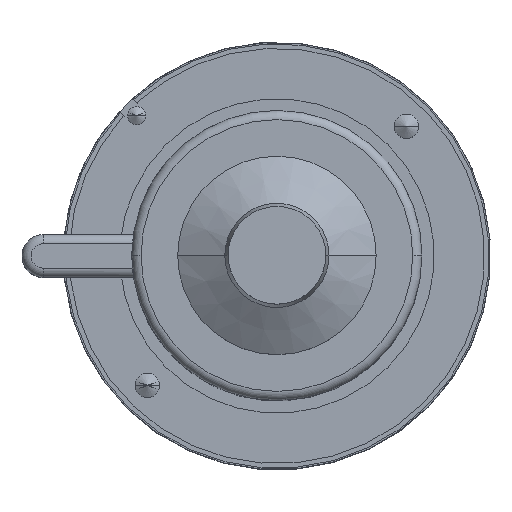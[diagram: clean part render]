
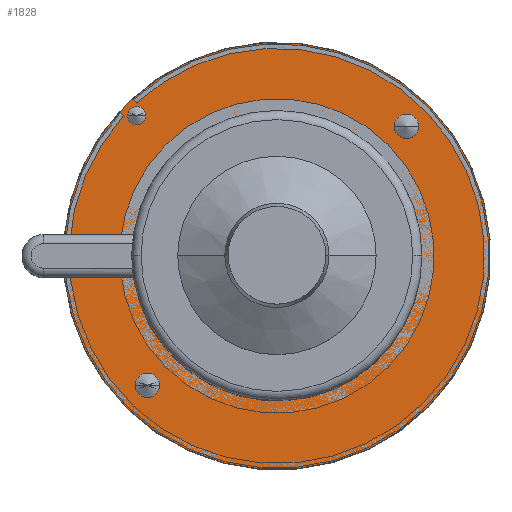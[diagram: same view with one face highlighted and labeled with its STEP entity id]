
A CAD part, top view. The second image highlights one B-rep face of the part: STEP entity #1828.
In plain terms, the highlighted planar face has unit normal (0, 0, 1).
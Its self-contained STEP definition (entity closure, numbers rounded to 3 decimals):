
#477 = EDGE_CURVE ( 'NONE', #6702, #7359, #12058, .T. ) ;
#478 = EDGE_CURVE ( 'NONE', #7576, #7233, #12060, .T. ) ;
#513 = EDGE_CURVE ( 'NONE', #7233, #7576, #12139, .T. ) ;
#514 = EDGE_CURVE ( 'NONE', #7513, #6909, #12138, .T. ) ;
#515 = EDGE_CURVE ( 'NONE', #7513, #7019, #12142, .T. ) ;
#516 = EDGE_CURVE ( 'NONE', #7097, #7019, #12141, .T. ) ;
#520 = EDGE_CURVE ( 'NONE', #7400, #6616, #12152, .T. ) ;
#563 = EDGE_CURVE ( 'NONE', #7097, #7298, #12245, .T. ) ;
#793 = DIRECTION ( 'NONE',  ( 0., 0., 1. ) ) ;
#895 = CARTESIAN_POINT ( 'NONE',  ( -46.981, -7., 32. ) ) ;
#918 = CARTESIAN_POINT ( 'NONE',  ( 42.426, 42.426, 32. ) ) ;
#991 = CARTESIAN_POINT ( 'NONE',  ( -46.981, 7., 32. ) ) ;
#1005 = CARTESIAN_POINT ( 'NONE',  ( -46.426, -42.426, 32. ) ) ;
#1041 = CARTESIAN_POINT ( 'NONE',  ( 38.426, 42.426, 32. ) ) ;
#1042 = DIRECTION ( 'NONE',  ( 0., 0., 1. ) ) ;
#1078 = CARTESIAN_POINT ( 'NONE',  ( -42.962, 45.962, 32. ) ) ;
#1129 = DIRECTION ( 'NONE',  ( 1., 0., 0. ) ) ;
#1238 = CARTESIAN_POINT ( 'NONE',  ( -69.649, -7., 32. ) ) ;
#1244 = CARTESIAN_POINT ( 'NONE',  ( 47.5, 0., 32. ) ) ;
#1297 = CARTESIAN_POINT ( 'NONE',  ( -48.962, 45.962, 32. ) ) ;
#1320 = CARTESIAN_POINT ( 'NONE',  ( 46.426, 42.426, 32. ) ) ;
#1407 = CARTESIAN_POINT ( 'NONE',  ( 0., 0., 32. ) ) ;
#1471 = CARTESIAN_POINT ( 'NONE',  ( -69.649, 7., 32. ) ) ;
#1474 = DIRECTION ( 'NONE',  ( -1., 0., 0. ) ) ;
#1559 = CARTESIAN_POINT ( 'NONE',  ( -38.426, -42.426, 32. ) ) ;
#1615 = AXIS2_PLACEMENT_3D ( 'NONE', #17335, #17334, #17299 ) ;
#1828 = ADVANCED_FACE ( 'NONE', ( #12469, #12470, #12471, #12472 ), #17336, .F. ) ;
#2061 = AXIS2_PLACEMENT_3D ( 'NONE', #6911, #6506, #6504 ) ;
#2071 = AXIS2_PLACEMENT_3D ( 'NONE', #6924, #7641, #6872 ) ;
#2077 = AXIS2_PLACEMENT_3D ( 'NONE', #7127, #6964, #7471 ) ;
#2078 = AXIS2_PLACEMENT_3D ( 'NONE', #6419, #7640, #6916 ) ;
#2096 = AXIS2_PLACEMENT_3D ( 'NONE', #6614, #6743, #6668 ) ;
#2098 = AXIS2_PLACEMENT_3D ( 'NONE', #6621, #6645, #6803 ) ;
#3650 = CIRCLE ( 'NONE', #21567, 4. ) ;
#3651 = CIRCLE ( 'NONE', #21566, 47.5 ) ;
#6341 = CARTESIAN_POINT ( 'NONE',  ( 0., -7., 32. ) ) ;
#6419 = CARTESIAN_POINT ( 'NONE',  ( -45.962, 45.962, 32. ) ) ;
#6504 = DIRECTION ( 'NONE',  ( 1., 0., 0. ) ) ;
#6506 = DIRECTION ( 'NONE',  ( 0., 0., 1. ) ) ;
#6614 = CARTESIAN_POINT ( 'NONE',  ( -45.962, 45.962, 32. ) ) ;
#6616 = VERTEX_POINT ( 'NONE', #1320 ) ;
#6621 = CARTESIAN_POINT ( 'NONE',  ( -42.426, -42.426, 32. ) ) ;
#6645 = DIRECTION ( 'NONE',  ( 0., 0., 1. ) ) ;
#6668 = DIRECTION ( 'NONE',  ( -1., 0., 0. ) ) ;
#6702 = VERTEX_POINT ( 'NONE', #1005 ) ;
#6742 = CARTESIAN_POINT ( 'NONE',  ( 0., 7., 32. ) ) ;
#6743 = DIRECTION ( 'NONE',  ( 0., 0., 1. ) ) ;
#6803 = DIRECTION ( 'NONE',  ( -1., 0., 0. ) ) ;
#6872 = DIRECTION ( 'NONE',  ( -1., 0., 0. ) ) ;
#6909 = VERTEX_POINT ( 'NONE', #991 ) ;
#6911 = CARTESIAN_POINT ( 'NONE',  ( 42.426, 42.426, 32. ) ) ;
#6916 = DIRECTION ( 'NONE',  ( -1., 0., 0. ) ) ;
#6924 = CARTESIAN_POINT ( 'NONE',  ( 0., 0., 32. ) ) ;
#6964 = DIRECTION ( 'NONE',  ( 0., 0., -1. ) ) ;
#7019 = VERTEX_POINT ( 'NONE', #1238 ) ;
#7097 = VERTEX_POINT ( 'NONE', #895 ) ;
#7127 = CARTESIAN_POINT ( 'NONE',  ( 0., 0., 32. ) ) ;
#7233 = VERTEX_POINT ( 'NONE', #1297 ) ;
#7298 = VERTEX_POINT ( 'NONE', #1244 ) ;
#7314 = DIRECTION ( 'NONE',  ( 1., 0., 0. ) ) ;
#7359 = VERTEX_POINT ( 'NONE', #1559 ) ;
#7400 = VERTEX_POINT ( 'NONE', #1041 ) ;
#7467 = DIRECTION ( 'NONE',  ( -1., 0., 0. ) ) ;
#7471 = DIRECTION ( 'NONE',  ( -1., 0., 0. ) ) ;
#7513 = VERTEX_POINT ( 'NONE', #1471 ) ;
#7576 = VERTEX_POINT ( 'NONE', #1078 ) ;
#7640 = DIRECTION ( 'NONE',  ( 0., 0., 1. ) ) ;
#7641 = DIRECTION ( 'NONE',  ( 0., 0., 1. ) ) ;
#7711 = EDGE_CURVE ( 'NONE', #6616, #7400, #3650, .T. ) ;
#7712 = EDGE_CURVE ( 'NONE', #7298, #6909, #3651, .T. ) ;
#7920 = EDGE_CURVE ( 'NONE', #7359, #6702, #14125, .T. ) ;
#12058 = CIRCLE ( 'NONE', #2098, 4. ) ;
#12060 = CIRCLE ( 'NONE', #2096, 3. ) ;
#12138 = LINE ( 'NONE', #6742, #12140 ) ;
#12139 = CIRCLE ( 'NONE', #2078, 3. ) ;
#12140 = VECTOR ( 'NONE', #7314, 1000. ) ;
#12141 = LINE ( 'NONE', #6341, #12143 ) ;
#12142 = CIRCLE ( 'NONE', #2077, 70. ) ;
#12143 = VECTOR ( 'NONE', #7467, 1000. ) ;
#12152 = CIRCLE ( 'NONE', #2061, 4. ) ;
#12245 = CIRCLE ( 'NONE', #2071, 47.5 ) ;
#12469 = FACE_OUTER_BOUND ( 'NONE', #19719, .T. ) ;
#12470 = FACE_BOUND ( 'NONE', #19677, .T. ) ;
#12471 = FACE_BOUND ( 'NONE', #19774, .T. ) ;
#12472 = FACE_BOUND ( 'NONE', #16467, .T. ) ;
#13367 = DIRECTION ( 'NONE',  ( 0., 0., 1. ) ) ;
#13532 = DIRECTION ( 'NONE',  ( -1., 0., 0. ) ) ;
#13668 = CARTESIAN_POINT ( 'NONE',  ( -42.426, -42.426, 32. ) ) ;
#14125 = CIRCLE ( 'NONE', #21540, 4. ) ;
#16467 = EDGE_LOOP ( 'NONE', ( #20539, #20336 ) ) ;
#17299 = DIRECTION ( 'NONE',  ( -1., 0., 0. ) ) ;
#17334 = DIRECTION ( 'NONE',  ( 0., 0., -1. ) ) ;
#17335 = CARTESIAN_POINT ( 'NONE',  ( 0., 32.5, 32. ) ) ;
#17336 = PLANE ( 'NONE',  #1615 ) ;
#19677 = EDGE_LOOP ( 'NONE', ( #20465, #20464 ) ) ;
#19719 = EDGE_LOOP ( 'NONE', ( #20470, #20440, #20469, #20467, #20466 ) ) ;
#19774 = EDGE_LOOP ( 'NONE', ( #20543, #20363 ) ) ;
#20336 = ORIENTED_EDGE ( 'NONE', *, *, #7920, .F. ) ;
#20363 = ORIENTED_EDGE ( 'NONE', *, *, #520, .F. ) ;
#20440 = ORIENTED_EDGE ( 'NONE', *, *, #516, .T. ) ;
#20464 = ORIENTED_EDGE ( 'NONE', *, *, #478, .F. ) ;
#20465 = ORIENTED_EDGE ( 'NONE', *, *, #513, .F. ) ;
#20466 = ORIENTED_EDGE ( 'NONE', *, *, #7712, .F. ) ;
#20467 = ORIENTED_EDGE ( 'NONE', *, *, #514, .T. ) ;
#20469 = ORIENTED_EDGE ( 'NONE', *, *, #515, .F. ) ;
#20470 = ORIENTED_EDGE ( 'NONE', *, *, #563, .F. ) ;
#20539 = ORIENTED_EDGE ( 'NONE', *, *, #477, .F. ) ;
#20543 = ORIENTED_EDGE ( 'NONE', *, *, #7711, .F. ) ;
#21540 = AXIS2_PLACEMENT_3D ( 'NONE', #13668, #13367, #13532 ) ;
#21566 = AXIS2_PLACEMENT_3D ( 'NONE', #1407, #1042, #1474 ) ;
#21567 = AXIS2_PLACEMENT_3D ( 'NONE', #918, #793, #1129 ) ;
